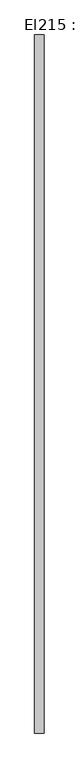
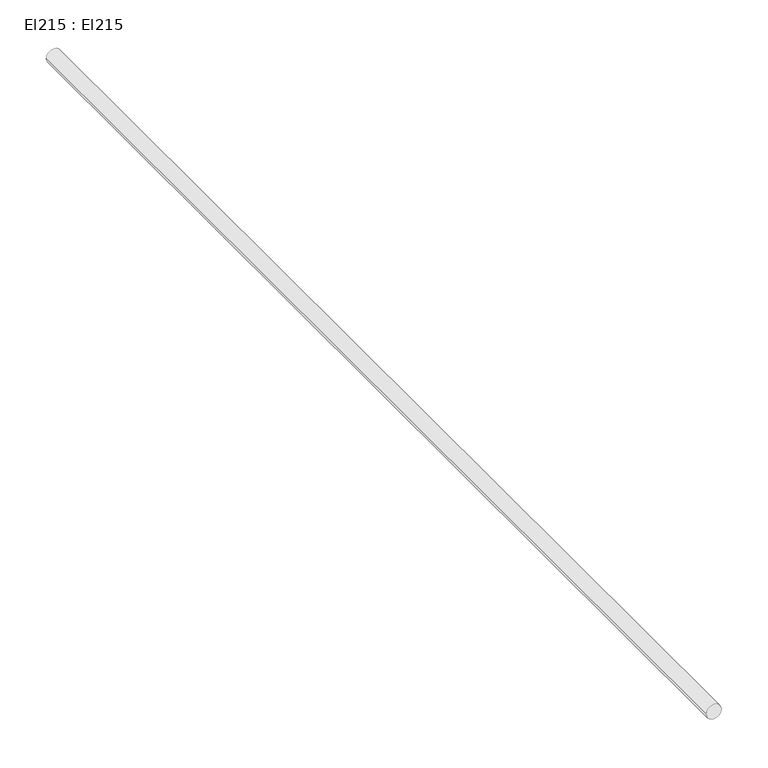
"""IFC4 building model written with IfcOpenShell, lengths in millimetres: cable carrier segment geometry, El215 : El215."""

from ifc_helpers import new_model, si_unit, point, frame, frame_2d, origin, place, context, project, spatial, circle_curve, trimmed, segment, composite_curve, outline, extrude, source, transform, mapped, element, save


def el215_el215_4306ce10(model_context):
    return source(origin(), model_context, "Body", "SweptSolid", [
        extrude(outline(composite_curve([segment(trimmed(circle_curve(frame_2d((2950.0, 5245.38)), 9.5), [point((2950.0, 5235.88))], [point((2950.0, 5254.88))], False, "CARTESIAN"), True, "CONTINUOUS"), segment(trimmed(circle_curve(frame_2d((2950.0, 5245.38)), 9.5), [point((2950.0, 5254.88))], [point((2950.0, 5235.88))], False, "CARTESIAN"), True, "CONTINUOUS")], self_intersect=False)), frame((0.0, 23873.036, 0.0), z_axis=(0.0, 1.0, 0.0), x_axis=(0.0, 0.0, 1.0)), (0.0, 0.0, 1.0), 1423.33),
    ])


if __name__ == "__main__":
    model = new_model("IFC4")
    model_context = context("Model", 3, world=origin())
    ifc_project = project(units=[si_unit("LENGTHUNIT", "METRE", prefix="MILLI")], contexts=[model_context])
    site = spatial("IfcSite", under=ifc_project)
    building = spatial("IfcBuilding", under=site)
    placement = place(None, origin())
    el215_el215_shape = el215_el215_4306ce10(model_context)
    element("IfcCableCarrierSegment", 1, ObjectType="El215 : El215", at=placement, inside=building, context=model_context, shape_type="MappedRepresentation", body=[
        mapped(el215_el215_shape, transform((0.0, 0.0, 0.0), x_axis=(1.0, 0.0, 0.0), y_axis=(0.0, 1.0, 0.0), z_axis=(0.0, 0.0, 1.0))),
    ])
    save(model, "model.ifc")
